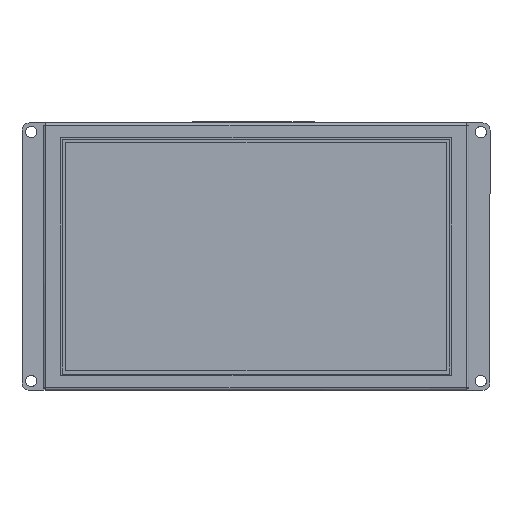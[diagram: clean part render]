
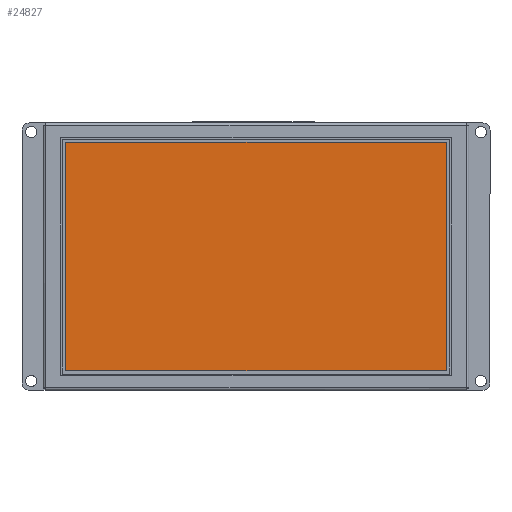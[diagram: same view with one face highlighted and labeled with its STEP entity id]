
A CAD part, top view. The second image highlights one B-rep face of the part: STEP entity #24827.
In plain terms, the highlighted planar face has unit normal (0, 0, 1) as drawn and (0, 0, -1) by its records, which use the part's own axes.
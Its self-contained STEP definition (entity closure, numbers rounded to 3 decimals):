
#5719 = DIRECTION ( 'NONE',  ( 0., 0., -1. ) ) ;
#12112 = VERTEX_POINT ( 'NONE', #96572 ) ;
#13828 = VERTEX_POINT ( 'NONE', #47038 ) ;
#24827 = ADVANCED_FACE ( 'NONE', ( #84893 ), #126362, .T. ) ;
#26888 = DIRECTION ( 'NONE',  ( 1., 0., 0. ) ) ;
#32536 = VECTOR ( 'NONE', #129362, 1000. ) ;
#34799 = LINE ( 'NONE', #141853, #63354 ) ;
#46624 = EDGE_LOOP ( 'NONE', ( #52118, #95849, #55546, #94268 ) ) ;
#47038 = CARTESIAN_POINT ( 'NONE',  ( -54., -32.45, 0.25 ) ) ;
#49396 = CARTESIAN_POINT ( 'NONE',  ( 0., -32.45, 0.25 ) ) ;
#52118 = ORIENTED_EDGE ( 'NONE', *, *, #136106, .F. ) ;
#54449 = EDGE_CURVE ( 'NONE', #13828, #66848, #59625, .T. ) ;
#55546 = ORIENTED_EDGE ( 'NONE', *, *, #130693, .F. ) ;
#59625 = LINE ( 'NONE', #49396, #96810 ) ;
#62551 = VECTOR ( 'NONE', #137690, 1000. ) ;
#63354 = VECTOR ( 'NONE', #79833, 1000. ) ;
#65364 = EDGE_CURVE ( 'NONE', #12112, #68459, #34799, .T. ) ;
#66202 = CARTESIAN_POINT ( 'NONE',  ( -54., 32.35, 0.25 ) ) ;
#66848 = VERTEX_POINT ( 'NONE', #86141 ) ;
#68459 = VERTEX_POINT ( 'NONE', #66202 ) ;
#68823 = LINE ( 'NONE', #93310, #62551 ) ;
#73346 = AXIS2_PLACEMENT_3D ( 'NONE', #105260, #5719, #94313 ) ;
#79833 = DIRECTION ( 'NONE',  ( -1., 0., 0. ) ) ;
#84317 = CARTESIAN_POINT ( 'NONE',  ( 54., 0., 0.25 ) ) ;
#84893 = FACE_OUTER_BOUND ( 'NONE', #46624, .T. ) ;
#86141 = CARTESIAN_POINT ( 'NONE',  ( 54., -32.45, 0.25 ) ) ;
#93310 = CARTESIAN_POINT ( 'NONE',  ( -54., 0., 0.25 ) ) ;
#94268 = ORIENTED_EDGE ( 'NONE', *, *, #65364, .F. ) ;
#94313 = DIRECTION ( 'NONE',  ( -1., 0., 0. ) ) ;
#95849 = ORIENTED_EDGE ( 'NONE', *, *, #54449, .F. ) ;
#96572 = CARTESIAN_POINT ( 'NONE',  ( 54., 32.35, 0.25 ) ) ;
#96810 = VECTOR ( 'NONE', #26888, 1000. ) ;
#105260 = CARTESIAN_POINT ( 'NONE',  ( 0., 0., 0.25 ) ) ;
#117728 = LINE ( 'NONE', #84317, #32536 ) ;
#126362 = PLANE ( 'NONE',  #73346 ) ;
#129362 = DIRECTION ( 'NONE',  ( 0., 1., 0. ) ) ;
#130693 = EDGE_CURVE ( 'NONE', #68459, #13828, #68823, .T. ) ;
#136106 = EDGE_CURVE ( 'NONE', #66848, #12112, #117728, .T. ) ;
#137690 = DIRECTION ( 'NONE',  ( 0., -1., 0. ) ) ;
#141853 = CARTESIAN_POINT ( 'NONE',  ( 0., 32.35, 0.25 ) ) ;
